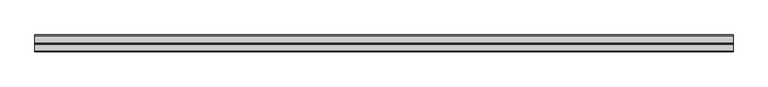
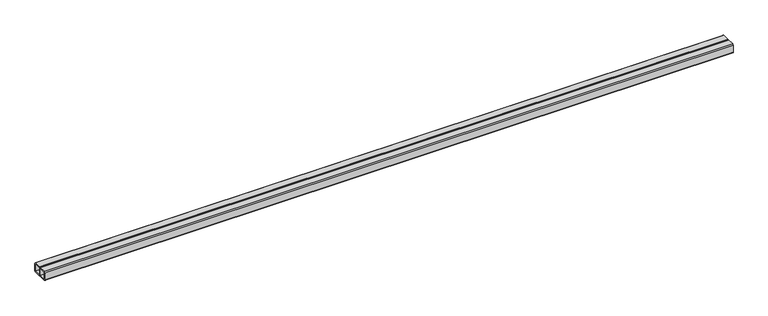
"""IFC4 building model written with IfcOpenShell, lengths in millimetres: proxy geometry, Legar systemowy LD5030 : Legar systemowy LD5030."""

import ifcopenshell
import ifcopenshell.guid

model = None  # the IFC model being written
_history = None  # IfcOwnerHistory: only IFC2X3 demands one
_inside = {}  # id of a spatial element -> (the spatial element, [elements in it])
_under = {}  # id of a project, library or spatial element -> (it, [spatial elements below it])
_declared = {}  # id of a project -> (the project, [libraries it declares])
_typed = {}  # id of a type object -> (the type object, [elements of that type])
_made_of = {}  # id of a material, layer set ... -> (it, [elements and type objects made of it])


def new_model(schema):
    """Start an empty IFC model of exactly this schema.

    Asked for "IFC4X3", IfcOpenShell would pick the latest addendum, in which some entities
    have other attributes; the version numbers below select the first issue.
    IFC2X3 requires an IfcOwnerHistory on every rooted entity: one is made here for all.
    """
    global model, _history
    if schema == "IFC4X3":
        model = ifcopenshell.file(schema_version=(4, 3, 0, 0))
    else:
        model = ifcopenshell.file(schema=schema)
    _inside.clear()
    _under.clear()
    _declared.clear()
    _typed.clear()
    _made_of.clear()
    _history = None
    if model.schema == "IFC2X3":
        org = make("IfcOrganization", Name="unknown")
        user = make(
            "IfcPersonAndOrganization",
            ThePerson=make("IfcPerson", FamilyName="unknown"),
            TheOrganization=org,
        )
        app = make(
            "IfcApplication",
            ApplicationDeveloper=org,
            Version="unknown",
            ApplicationFullName="unknown",
            ApplicationIdentifier="unknown",
        )
        _history = make(
            "IfcOwnerHistory",
            OwningUser=user,
            OwningApplication=app,
            ChangeAction="ADDED",
            CreationDate=0,
        )
    return model


def make(cls, **values):
    """One entity of the class cls with the attributes given. An attribute that is None is left unset."""
    return model.create_entity(
        cls, **{name: value for name, value in values.items() if value is not None}
    )


def rooted(cls, **values):
    """An entity with a GlobalId (a new one), such as an element, a storey or a relation."""
    return make(cls, GlobalId=ifcopenshell.guid.new(), OwnerHistory=_history, **values)


def si_unit(unit_type, name, prefix=None):
    """IfcSIUnit, for example si_unit("LENGTHUNIT", "METRE", prefix="MILLI")."""
    return make("IfcSIUnit", UnitType=unit_type, Prefix=prefix, Name=name)


def assignment(units):
    """IfcUnitAssignment: the units of a project."""
    return None if units is None else make("IfcUnitAssignment", Units=units)


def point(xyz):
    """IfcCartesianPoint."""
    return None if xyz is None else make("IfcCartesianPoint", Coordinates=xyz)


def direction(xyz):
    """IfcDirection."""
    return None if xyz is None else make("IfcDirection", DirectionRatios=xyz)


def frame(location, z_axis=None, x_axis=None):
    """IfcAxis2Placement3D, a coordinate frame: its origin and axes. An axis left out is left unset."""
    return make(
        "IfcAxis2Placement3D",
        Location=point(location),
        Axis=direction(z_axis),
        RefDirection=direction(x_axis),
    )


def frame_2d(location, x_axis=None):
    """IfcAxis2Placement2D, a coordinate frame in the plane: its origin and x axis."""
    return make(
        "IfcAxis2Placement2D", Location=point(location), RefDirection=direction(x_axis)
    )


def origin():
    """The frame at (0, 0, 0) with its axes left unset."""
    return frame((0.0, 0.0, 0.0))


def place(relative_to, where):
    """IfcLocalPlacement: puts the frame where relative to a parent placement (None: the world)."""
    return make(
        "IfcLocalPlacement", PlacementRelTo=relative_to, RelativePlacement=where
    )


def context(
    kind, dimensions, precision=None, world=None, true_north=None, identifier=None
):
    """IfcGeometricRepresentationContext, for example the 3D "Model" context."""
    return make(
        "IfcGeometricRepresentationContext",
        ContextIdentifier=identifier,
        ContextType=kind,
        CoordinateSpaceDimension=dimensions,
        Precision=precision,
        WorldCoordinateSystem=world,
        TrueNorth=true_north,
    )


def project(units=None, contexts=None):
    """IfcProject with its units and contexts."""
    return rooted(
        "IfcProject",
        Name="project",
        RepresentationContexts=contexts,
        UnitsInContext=assignment(units),
    )


def spatial(cls, under=None, at=None, **own):
    """A site, building, storey or space (cls), placed at a placement, below another one or the project."""
    s = rooted(cls, ObjectPlacement=at, **own)
    if under is not None:
        _under.setdefault(under.id(), (under, []))[1].append(s)
    return s


def polyline(points):
    """IfcPolyline through the points."""
    return make("IfcPolyline", Points=[point(p) for p in points])


def circle_curve(where, radius):
    """IfcCircle in the frame where."""
    return make("IfcCircle", Position=where, Radius=radius)


def trimmed(basis, trim1, trim2, sense, master):
    """IfcTrimmedCurve: the piece of a basis curve between two trims."""
    return make(
        "IfcTrimmedCurve",
        BasisCurve=basis,
        Trim1=trim1,
        Trim2=trim2,
        SenseAgreement=sense,
        MasterRepresentation=master,
    )


def segment(curve, same_sense, transition):
    """IfcCompositeCurveSegment."""
    return make(
        "IfcCompositeCurveSegment",
        Transition=transition,
        SameSense=same_sense,
        ParentCurve=curve,
    )


def composite_curve(segments, self_intersect=None):
    """IfcCompositeCurve: segments joined end to end."""
    return make("IfcCompositeCurve", Segments=segments, SelfIntersect=self_intersect)


def outline(outer, holes=None, kind="AREA"):
    """IfcArbitraryClosedProfileDef: a profile drawn as a closed curve; with holes, ...WithVoids."""
    if holes is None:
        return make("IfcArbitraryClosedProfileDef", ProfileType=kind, OuterCurve=outer)
    return make(
        "IfcArbitraryProfileDefWithVoids",
        ProfileType=kind,
        OuterCurve=outer,
        InnerCurves=holes,
    )


def extrude(swept, where, along, depth):
    """IfcExtrudedAreaSolid: the profile swept, set in the frame where, extruded along a direction by depth."""
    return make(
        "IfcExtrudedAreaSolid",
        SweptArea=swept,
        Position=where,
        ExtrudedDirection=direction(along),
        Depth=depth,
    )


def shape(context_of_items, identifier, shape_type, items):
    """IfcShapeRepresentation: the items that make up one representation, for example the "Body"."""
    return make(
        "IfcShapeRepresentation",
        ContextOfItems=context_of_items,
        RepresentationIdentifier=identifier,
        RepresentationType=shape_type,
        Items=items,
    )


def source(mapping_origin, context_of_items, identifier, shape_type, items):
    """IfcRepresentationMap: a shape defined once, which mapped items show again and again."""
    return make(
        "IfcRepresentationMap",
        MappingOrigin=mapping_origin,
        MappedRepresentation=shape(context_of_items, identifier, shape_type, items),
    )


def transform(
    local_origin,
    x_axis=None,
    y_axis=None,
    z_axis=None,
    scale=None,
    scale2=None,
    scale3=None,
    uniform=True,
):
    """IfcCartesianTransformationOperator3D, or its non-uniform kind. x_axis, y_axis, z_axis: its Axis1, 2, 3."""
    if uniform:
        return make(
            "IfcCartesianTransformationOperator3D",
            Axis1=direction(x_axis),
            Axis2=direction(y_axis),
            LocalOrigin=point(local_origin),
            Scale=scale,
            Axis3=direction(z_axis),
        )
    return make(
        "IfcCartesianTransformationOperator3DnonUniform",
        Axis1=direction(x_axis),
        Axis2=direction(y_axis),
        LocalOrigin=point(local_origin),
        Scale=scale,
        Axis3=direction(z_axis),
        Scale2=scale2,
        Scale3=scale3,
    )


def mapped(mapping_source, mapping_target):
    """IfcMappedItem: shows the shape of a source again, moved by a transform."""
    return make(
        "IfcMappedItem", MappingSource=mapping_source, MappingTarget=mapping_target
    )


def made_of(thing, what):
    """Note that an element or type object is made of a material, layer set ...; save() writes the relation."""
    if what is not None:
        _made_of.setdefault(what.id(), (what, []))[1].append(thing)
    return thing


def element(
    cls,
    number,
    at=None,
    inside=None,
    cuts=None,
    type_object=None,
    material=None,
    context=None,
    identifier="Body",
    shape_type=None,
    held_by="IfcProductDefinitionShape",
    body=None,
    shapes=None,
    **own,
):
    """One element of the class cls, such as IfcWall. Its Tag is "e" and its number.

    at: its placement. inside: the storey or other place that contains it. cuts: it is an
    opening in that element (IfcRelVoidsElement). A single representation is given by context,
    identifier, shape_type and body (its items); several are given by shapes. held_by: the class
    of the entity that holds the representations. save() writes the other relations.
    """
    e = rooted(cls, Tag="e%d" % number, ObjectPlacement=at, **own)
    if body is not None:
        shapes = [shape(context, identifier, shape_type, body)]
    if shapes is not None:
        e.Representation = make(held_by, Representations=shapes)
    if inside is not None:
        _inside.setdefault(inside.id(), (inside, []))[1].append(e)
    if cuts is not None:
        rooted(
            "IfcRelVoidsElement", RelatingBuildingElement=cuts, RelatedOpeningElement=e
        )
    if type_object is not None:
        _typed.setdefault(type_object.id(), (type_object, []))[1].append(e)
    return made_of(e, material)


def aggregate(whole, parts):
    """IfcRelAggregates: a whole, such as a stair, and the parts it consists of."""
    return rooted("IfcRelAggregates", RelatingObject=whole, RelatedObjects=parts)


def save(model, path):
    """Write the relations noted so far, then the file.

    IfcRelAggregates (storeys below a building ...), IfcRelContainedInSpatialStructure (elements
    in a storey), IfcRelDefinesByType, IfcRelAssociatesMaterial and IfcRelDeclares: one each for
    every whole, place, type object, material and project.
    """
    for whole, parts in _under.values():
        aggregate(whole, parts)
    for where, things in _inside.values():
        rooted(
            "IfcRelContainedInSpatialStructure",
            RelatedElements=things,
            RelatingStructure=where,
        )
    for kind, things in _typed.values():
        rooted("IfcRelDefinesByType", RelatedObjects=things, RelatingType=kind)
    for what, things in _made_of.values():
        rooted("IfcRelAssociatesMaterial", RelatedObjects=things, RelatingMaterial=what)
    for by, libraries in _declared.values():
        rooted("IfcRelDeclares", RelatingContext=by, RelatedDefinitions=libraries)
    model.write(path)


def generic_models_f69c671b(model_context):
    return source(origin(), model_context, "Body", "SweptSolid", [
        extrude(outline(composite_curve([segment(polyline([(-3.0018903, 0.0), (-24.9387574, 0.0), (-25.582892, 1.2480109), (-28.6791258, 1.2480109), (-29.3232605, 0.0), (-51.2601275, 0.0)]), True, "CONTINUOUS"), segment(trimmed(circle_curve(frame_2d((-51.2410882, 3.0209296)), 3.0209896), [point((-51.2601275, 0.0))], [point((-54.2620178, 3.0018903))], False, "CARTESIAN"), True, "CONTINUOUS"), segment(polyline([(-54.2620178, 3.0018903), (-54.2620178, 26.9981097)]), True, "CONTINUOUS"), segment(trimmed(circle_curve(frame_2d((-51.227068, 26.9650502)), 3.0351298), [point((-54.2620178, 26.9981097))], [point((-51.2601275, 30.0))], False, "CARTESIAN"), True, "CONTINUOUS"), segment(polyline([(-51.2601275, 30.0), (-29.321697, 30.0), (-28.6791258, 28.7550182), (-25.582892, 28.7550182), (-24.9403208, 30.0), (-3.0018903, 30.0)]), True, "CONTINUOUS"), segment(trimmed(circle_curve(frame_2d((-3.0359475, 26.9640525)), 3.0361385), [point((-3.0018903, 30.0))], [point((0.0, 26.9981097))], False, "CARTESIAN"), True, "CONTINUOUS"), segment(polyline([(0.0, 26.9981097), (0.0, 3.0018903)]), True, "CONTINUOUS"), segment(trimmed(circle_curve(frame_2d((-3.0303538, 3.0303538)), 3.0304875), [point((0.0, 3.0018903))], [point((-3.0018903, 0.0))], False, "CARTESIAN"), True, "CONTINUOUS")], self_intersect=False), holes=[polyline([(-24.7311627, 26.1226846), (-24.7311627, 3.8773154), (-4.2620178, 3.8773154), (-4.2620178, 26.1226846), (-24.7311627, 26.1226846)]), polyline([(-29.5308551, 26.1226846), (-50.0, 26.1226846), (-50.0, 3.8773154), (-29.5308551, 3.8773154), (-29.5308551, 26.1226846)])]), frame((0.0, 0.0, 0.0), z_axis=(1.0, 0.0, 0.0), x_axis=(0.0, 1.0, 0.0)), (0.0, 0.0, 1.0), 2233.3306184),
    ])


if __name__ == "__main__":
    model = new_model("IFC4")
    model_context = context("Model", 3, world=origin())
    ifc_project = project(units=[si_unit("LENGTHUNIT", "METRE", prefix="MILLI")], contexts=[model_context])
    site = spatial("IfcSite", under=ifc_project)
    building = spatial("IfcBuilding", under=site)
    placement = place(None, origin())
    generic_models_shape = generic_models_f69c671b(model_context)
    element("IfcBuildingElementProxy", 1, Name="Legar systemowy LD5030 : Legar systemowy LD5030", ObjectType="Legar systemowy LD5030 : Legar systemowy LD5030", at=placement, inside=building, context=model_context, shape_type="MappedRepresentation", body=[
        mapped(generic_models_shape, transform((0.0, 0.0, 0.0), x_axis=(1.0, 0.0, 0.0), y_axis=(0.0, 1.0, 0.0), z_axis=(0.0, 0.0, 1.0))),
    ])
    save(model, "model.ifc")
